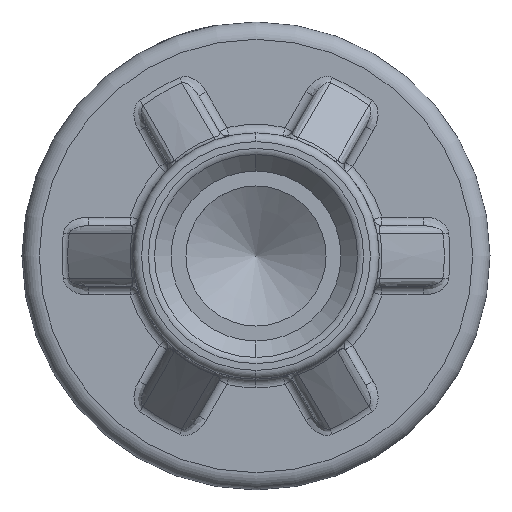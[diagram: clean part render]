
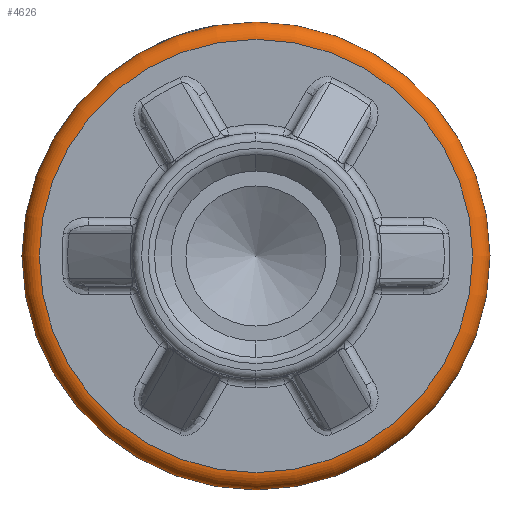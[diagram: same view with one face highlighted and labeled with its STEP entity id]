
A CAD part, left-side view. The second image highlights one B-rep face of the part: STEP entity #4626.
In plain terms, the highlighted toroidal (fillet/blend) face has major radius 6.25 mm and minor radius 0.5 mm.
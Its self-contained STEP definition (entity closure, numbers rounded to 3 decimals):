
#917=FACE_OUTER_BOUND('',#1230,.T.);
#1230=EDGE_LOOP('',(#3132,#3133,#3134,#3135,#3136,#3137,#3138));
#1589=CIRCLE('',#5011,6.75);
#1590=CIRCLE('',#5012,0.5);
#1591=CIRCLE('',#5013,6.25);
#1592=CIRCLE('',#5014,6.25);
#1593=CIRCLE('',#5015,6.75);
#1594=CIRCLE('',#5016,6.75);
#1923=VERTEX_POINT('',#6900);
#1924=VERTEX_POINT('',#6901);
#1925=VERTEX_POINT('',#6903);
#1926=VERTEX_POINT('',#6905);
#1927=VERTEX_POINT('',#6908);
#2377=EDGE_CURVE('',#1923,#1924,#1589,.T.);
#2378=EDGE_CURVE('',#1923,#1925,#1590,.T.);
#2379=EDGE_CURVE('',#1926,#1925,#1591,.T.);
#2380=EDGE_CURVE('',#1925,#1926,#1592,.T.);
#2381=EDGE_CURVE('',#1927,#1923,#1593,.T.);
#2382=EDGE_CURVE('',#1924,#1927,#1594,.T.);
#3132=ORIENTED_EDGE('',*,*,#2377,.F.);
#3133=ORIENTED_EDGE('',*,*,#2378,.T.);
#3134=ORIENTED_EDGE('',*,*,#2379,.F.);
#3135=ORIENTED_EDGE('',*,*,#2380,.F.);
#3136=ORIENTED_EDGE('',*,*,#2378,.F.);
#3137=ORIENTED_EDGE('',*,*,#2381,.F.);
#3138=ORIENTED_EDGE('',*,*,#2382,.F.);
#4572=TOROIDAL_SURFACE('',#5010,6.25,0.5);
#4626=ADVANCED_FACE('',(#917),#4572,.T.);
#5010=AXIS2_PLACEMENT_3D('',#6899,#5630,#5631);
#5011=AXIS2_PLACEMENT_3D('',#6902,#5632,#5633);
#5012=AXIS2_PLACEMENT_3D('',#6904,#5634,#5635);
#5013=AXIS2_PLACEMENT_3D('',#6906,#5636,#5637);
#5014=AXIS2_PLACEMENT_3D('',#6907,#5638,#5639);
#5015=AXIS2_PLACEMENT_3D('',#6909,#5640,#5641);
#5016=AXIS2_PLACEMENT_3D('',#6910,#5642,#5643);
#5630=DIRECTION('center_axis',(1.,0.,0.));
#5631=DIRECTION('ref_axis',(0.,0.,-1.));
#5632=DIRECTION('center_axis',(1.,0.,0.));
#5633=DIRECTION('ref_axis',(0.,0.,
1.));
#5634=DIRECTION('center_axis',(0.,-1.,0.));
#5635=DIRECTION('ref_axis',(0.,0.,
1.));
#5636=DIRECTION('center_axis',(-1.,0.,0.));
#5637=DIRECTION('ref_axis',(0.,0.,
-1.));
#5638=DIRECTION('center_axis',(-1.,0.,0.));
#5639=DIRECTION('ref_axis',(0.,0.,1.));
#5640=DIRECTION('center_axis',(1.,0.,0.));
#5641=DIRECTION('ref_axis',(0.,0.,-1.));
#5642=DIRECTION('center_axis',(1.,0.,0.));
#5643=DIRECTION('ref_axis',(0.,0.,
1.));
#6899=CARTESIAN_POINT('Origin',(-3.375,0.,
0.));
#6900=CARTESIAN_POINT('',(-3.375,0.,6.75));
#6901=CARTESIAN_POINT('',(-3.375,-6.75,0.));
#6902=CARTESIAN_POINT('Origin',(-3.375,0.,0.));
#6903=CARTESIAN_POINT('',(-3.875,0.,6.25));
#6904=CARTESIAN_POINT('Origin',(-3.375,0.,6.25));
#6905=CARTESIAN_POINT('',(-3.875,0.,-6.25));
#6906=CARTESIAN_POINT('Origin',(-3.875,0.,0.));
#6907=CARTESIAN_POINT('Origin',(-3.875,0.,0.));
#6908=CARTESIAN_POINT('',(-3.375,0.,-6.75));
#6909=CARTESIAN_POINT('Origin',(-3.375,0.,0.));
#6910=CARTESIAN_POINT('Origin',(-3.375,0.,0.));
